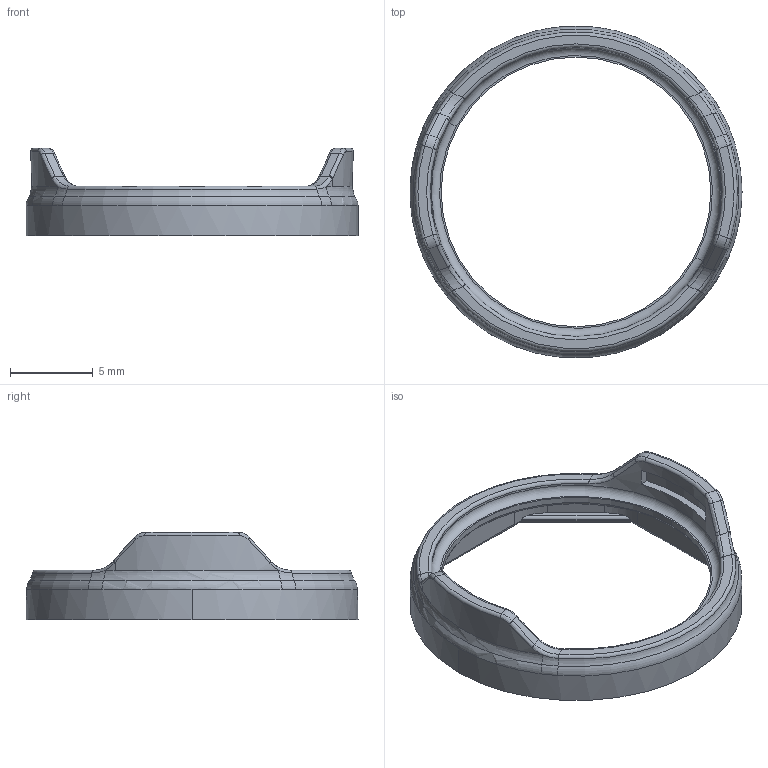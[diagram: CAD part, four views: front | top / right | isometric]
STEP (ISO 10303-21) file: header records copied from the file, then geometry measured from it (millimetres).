
FILE_DESCRIPTION(('CATIA V5 STEP Exchange'),'2;1');
FILE_NAME('C:\Users\dujian\Desktop\DJI_O3_Lens_F.stp','2025-03-10T10:14:52+00:00',('none'),('none'),'CATIA Version 5 Release 21 GA (IN-10)','CATIA V5 STEP AP203','none');
FILE_SCHEMA(('CONFIG_CONTROL_DESIGN'));
Length unit declared in the file: millimetre
Products named in the file (1): DJI_O3_Lens_F
Bounding box: 20.12 x 20.12 x 5.3 mm (x, y, z)
Volume: 259.8 mm3; surface area: 632.6 mm2
Topology: 1 solids, 1 shells, 139 faces, 330 edges, 196 vertices
Faces by surface type: bspline 36, plane 35, cylinder 34, torus 28, cone 6
Entity records: 5443 total; most frequent: CARTESIAN_POINT 2643, ORIENTED_EDGE 660, DIRECTION 386, EDGE_CURVE 330, AXIS2_PLACEMENT_3D 199, VERTEX_POINT 196, EDGE_LOOP 144, ADVANCED_FACE 139
